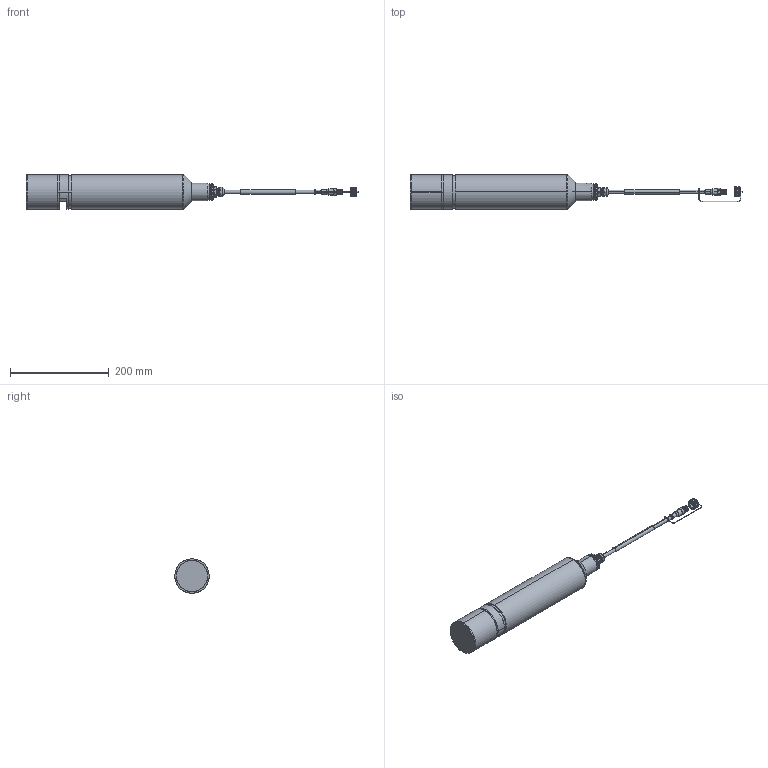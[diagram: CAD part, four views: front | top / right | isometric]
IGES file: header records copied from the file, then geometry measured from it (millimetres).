
Start section: SolidWorks IGES file using analytic representation for surfaces
Global section: file name: H:\WORKGROUP\TIS\Transmittals\LXV417\LXV417.TD.XXXXX__001.IGS; native system: SolidWorks 2012; preprocessor: SolidWorks 2012; author: ceggers; date: 140512.081925; units: millimetre
Bounding box: 670.95 x 69.5 x 69.5 mm (x, y, z)
Surface area: 241908.3 mm2 (no closed solid volume)
Topology: 0 solids, 0 shells, 951 faces, 13124 edges, 13120 vertices
Faces by surface type: bspline 601, revolution 350
